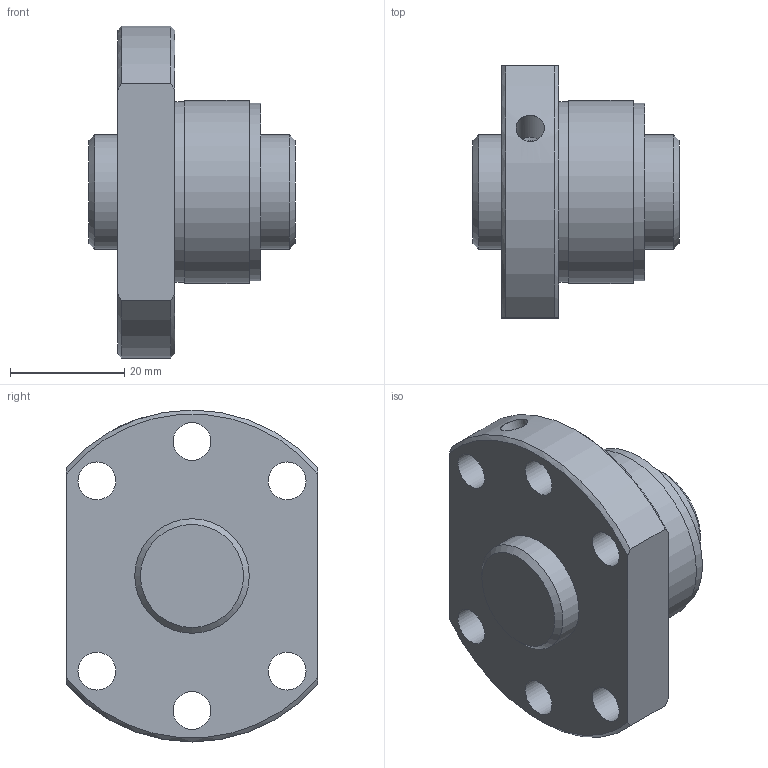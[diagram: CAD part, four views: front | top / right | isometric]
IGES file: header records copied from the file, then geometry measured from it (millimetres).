
Start section: Data from Parasolid IGES Translator 26.0.171, Copyright(c) 2006 Siemens PLM Software. All Rights Reserved.
Global section: file name: SDA2004V-4G0+36LC0(0G000).igs; native system: By Siemens PLM Incorporated; preprocessor: XPlus GENERIC/IGES 26.0.171; author: Noname; organization: Noname; date: 20240528.112949; units: millimetre
Bounding box: 36 x 44 x 58 mm (x, y, z)
Surface area: 12598 mm2 (no closed solid volume)
Topology: 0 solids, 0 shells, 31 faces, 156 edges, 140 vertices
Faces by surface type: revolution 22, extrusion 9
